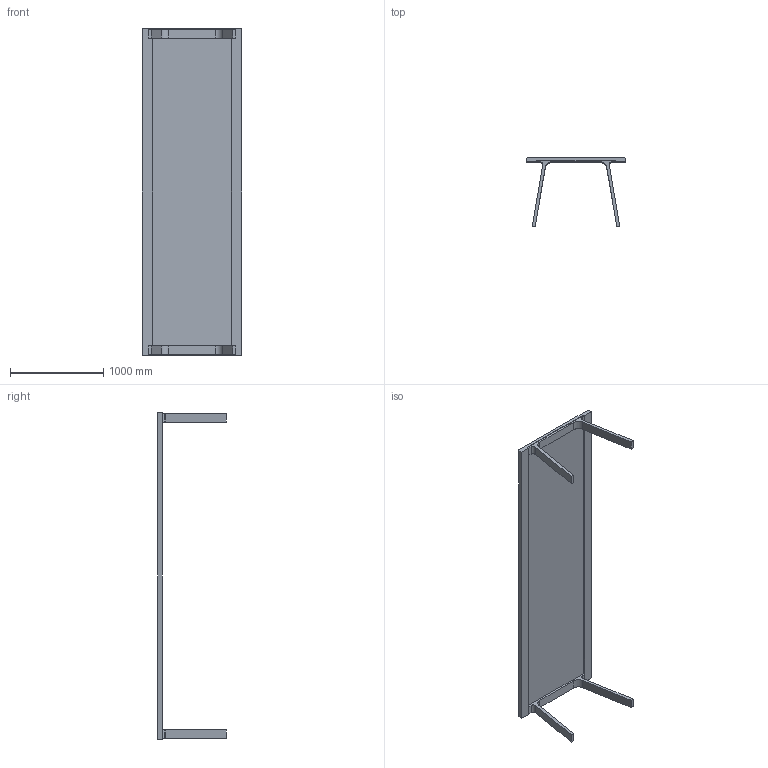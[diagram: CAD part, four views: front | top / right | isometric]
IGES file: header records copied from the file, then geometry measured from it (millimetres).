
Start section: SolidWorks IGES file using analytic representation for surfaces
Global section: file name: G:\Product Info\Doble\3D\igs\Doble 350x105x74-poten buiten.IGS; native system: SolidWorks 2008; preprocessor: SolidWorks 2008; author: remko; date: 080826.135241; units: millimetre
Bounding box: 1067.63 x 740 x 3500 mm (x, y, z)
Surface area: 8898042.7 mm2 (no closed solid volume)
Topology: 0 solids, 0 shells, 46 faces, 356 edges, 356 vertices
Faces by surface type: bspline 36, revolution 10
